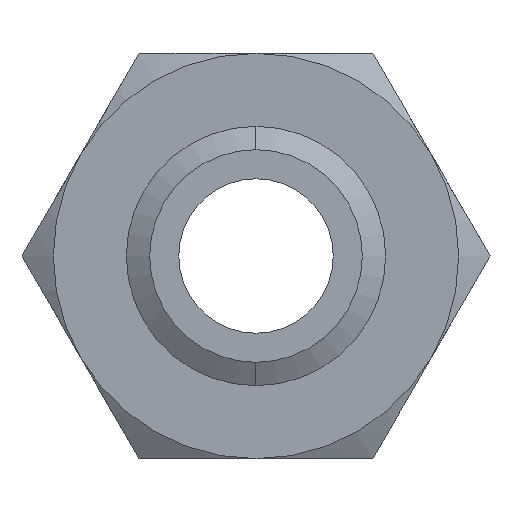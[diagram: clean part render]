
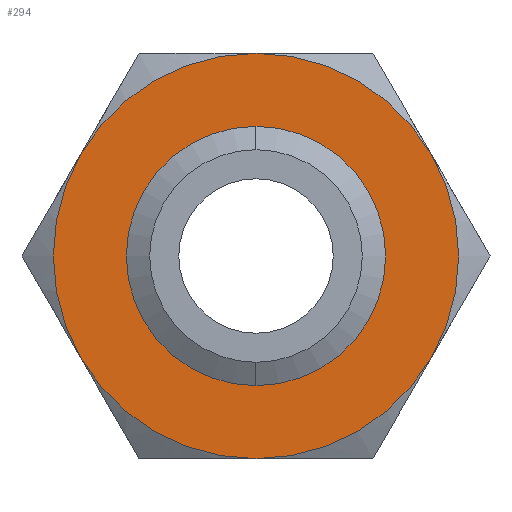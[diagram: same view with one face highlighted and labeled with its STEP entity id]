
A CAD part, front view. The second image highlights one B-rep face of the part: STEP entity #294.
In plain terms, the highlighted planar face has unit normal (0, -1, 0).
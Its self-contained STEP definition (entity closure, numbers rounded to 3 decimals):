
#22 = VERTEX_POINT ( 'NONE', #389 ) ;
#28 = VERTEX_POINT ( 'NONE', #375 ) ;
#34 = EDGE_CURVE ( 'NONE', #22, #28, #368, .T. ) ;
#114 = EDGE_CURVE ( 'NONE', #28, #22, #537, .T. ) ;
#115 = ORIENTED_EDGE ( 'NONE', *, *, #114, .F. ) ;
#116 = EDGE_LOOP ( 'NONE', ( #117, #115 ) ) ;
#117 = ORIENTED_EDGE ( 'NONE', *, *, #34, .F. ) ;
#118 = ORIENTED_EDGE ( 'NONE', *, *, #120, .F. ) ;
#119 = VERTEX_POINT ( 'NONE', #529 ) ;
#120 = EDGE_CURVE ( 'NONE', #1817, #119, #527, .T. ) ;
#294 = ADVANCED_FACE ( 'NONE', ( #874, #873 ), #872, .F. ) ;
#295 = EDGE_LOOP ( 'NONE', ( #1827, #1825, #1823, #1728, #1911, #118 ) ) ;
#364 = DIRECTION ( 'NONE',  ( 0., 0., -1. ) ) ;
#365 = DIRECTION ( 'NONE',  ( 0., -1., 0. ) ) ;
#366 = CARTESIAN_POINT ( 'NONE',  ( 0., 0., 0. ) ) ;
#367 = AXIS2_PLACEMENT_3D ( 'NONE', #366, #365, #364 ) ;
#368 = CIRCLE ( 'NONE', #367, 19.67 ) ;
#375 = CARTESIAN_POINT ( 'NONE',  ( 0., 0., 19.67 ) ) ;
#389 = CARTESIAN_POINT ( 'NONE',  ( 0., 0., -19.67 ) ) ;
#523 = DIRECTION ( 'NONE',  ( 0., 0., 1. ) ) ;
#524 = DIRECTION ( 'NONE',  ( 0., 1., 0. ) ) ;
#525 = CARTESIAN_POINT ( 'NONE',  ( 0., 0., 0. ) ) ;
#526 = AXIS2_PLACEMENT_3D ( 'NONE', #525, #524, #523 ) ;
#527 = CIRCLE ( 'NONE', #526, 37.5 ) ;
#529 = CARTESIAN_POINT ( 'NONE',  ( 32.476, 0., -18.75 ) ) ;
#530 = DIRECTION ( 'NONE',  ( 0., 0., -1. ) ) ;
#531 = DIRECTION ( 'NONE',  ( 0., -1., 0. ) ) ;
#532 = CARTESIAN_POINT ( 'NONE',  ( 0., 0., 0. ) ) ;
#533 = AXIS2_PLACEMENT_3D ( 'NONE', #532, #531, #530 ) ;
#537 = CIRCLE ( 'NONE', #533, 19.67 ) ;
#867 = DIRECTION ( 'NONE',  ( 0., 0., 1. ) ) ;
#868 = DIRECTION ( 'NONE',  ( 0., 1., 0. ) ) ;
#869 = CARTESIAN_POINT ( 'NONE',  ( 21.651, 0., -37.5 ) ) ;
#871 = AXIS2_PLACEMENT_3D ( 'NONE', #869, #868, #867 ) ;
#872 = PLANE ( 'NONE',  #871 ) ;
#873 = FACE_BOUND ( 'NONE', #116, .T. ) ;
#874 = FACE_OUTER_BOUND ( 'NONE', #295, .T. ) ;
#922 = DIRECTION ( 'NONE',  ( 0., 0., 1. ) ) ;
#923 = DIRECTION ( 'NONE',  ( 0., 1., 0. ) ) ;
#924 = CARTESIAN_POINT ( 'NONE',  ( 0., 0., 0. ) ) ;
#925 = AXIS2_PLACEMENT_3D ( 'NONE', #924, #923, #922 ) ;
#926 = CIRCLE ( 'NONE', #925, 37.5 ) ;
#980 = CARTESIAN_POINT ( 'NONE',  ( -32.476, 0., -18.75 ) ) ;
#1097 = DIRECTION ( 'NONE',  ( 0., 0., 1. ) ) ;
#1098 = DIRECTION ( 'NONE',  ( 0., 1., 0. ) ) ;
#1099 = CARTESIAN_POINT ( 'NONE',  ( 0., 0., 0. ) ) ;
#1100 = AXIS2_PLACEMENT_3D ( 'NONE', #1099, #1098, #1097 ) ;
#1105 = CIRCLE ( 'NONE', #1100, 37.5 ) ;
#1107 = DIRECTION ( 'NONE',  ( 0., 0., 1. ) ) ;
#1108 = DIRECTION ( 'NONE',  ( 0., 1., 0. ) ) ;
#1109 = CARTESIAN_POINT ( 'NONE',  ( 0., 0., 0. ) ) ;
#1110 = AXIS2_PLACEMENT_3D ( 'NONE', #1109, #1108, #1107 ) ;
#1111 = CIRCLE ( 'NONE', #1110, 37.5 ) ;
#1113 = CARTESIAN_POINT ( 'NONE',  ( -32.476, 0., 18.75 ) ) ;
#1114 = DIRECTION ( 'NONE',  ( 0., 0., 1. ) ) ;
#1115 = DIRECTION ( 'NONE',  ( 0., 1., 0. ) ) ;
#1116 = CARTESIAN_POINT ( 'NONE',  ( 0., 0., 0. ) ) ;
#1117 = AXIS2_PLACEMENT_3D ( 'NONE', #1116, #1115, #1114 ) ;
#1118 = CIRCLE ( 'NONE', #1117, 37.5 ) ;
#1119 = CARTESIAN_POINT ( 'NONE',  ( 0., 0., 37.5 ) ) ;
#1121 = CARTESIAN_POINT ( 'NONE',  ( 32.476, 0., 18.75 ) ) ;
#1246 = CARTESIAN_POINT ( 'NONE',  ( 0., 0., -37.5 ) ) ;
#1289 = DIRECTION ( 'NONE',  ( 0., 0., 1. ) ) ;
#1290 = DIRECTION ( 'NONE',  ( 0., 1., 0. ) ) ;
#1291 = CARTESIAN_POINT ( 'NONE',  ( 0., 0., 0. ) ) ;
#1292 = AXIS2_PLACEMENT_3D ( 'NONE', #1291, #1290, #1289 ) ;
#1293 = CIRCLE ( 'NONE', #1292, 37.5 ) ;
#1647 = EDGE_CURVE ( 'NONE', #1913, #1690, #926, .T. ) ;
#1690 = VERTEX_POINT ( 'NONE', #980 ) ;
#1728 = ORIENTED_EDGE ( 'NONE', *, *, #1647, .F. ) ;
#1817 = VERTEX_POINT ( 'NONE', #1121 ) ;
#1819 = VERTEX_POINT ( 'NONE', #1119 ) ;
#1822 = EDGE_CURVE ( 'NONE', #1690, #1824, #1118, .T. ) ;
#1823 = ORIENTED_EDGE ( 'NONE', *, *, #1822, .F. ) ;
#1824 = VERTEX_POINT ( 'NONE', #1113 ) ;
#1825 = ORIENTED_EDGE ( 'NONE', *, *, #1826, .F. ) ;
#1826 = EDGE_CURVE ( 'NONE', #1824, #1819, #1111, .T. ) ;
#1827 = ORIENTED_EDGE ( 'NONE', *, *, #1830, .F. ) ;
#1830 = EDGE_CURVE ( 'NONE', #1819, #1817, #1105, .T. ) ;
#1911 = ORIENTED_EDGE ( 'NONE', *, *, #1930, .F. ) ;
#1913 = VERTEX_POINT ( 'NONE', #1246 ) ;
#1930 = EDGE_CURVE ( 'NONE', #119, #1913, #1293, .T. ) ;
